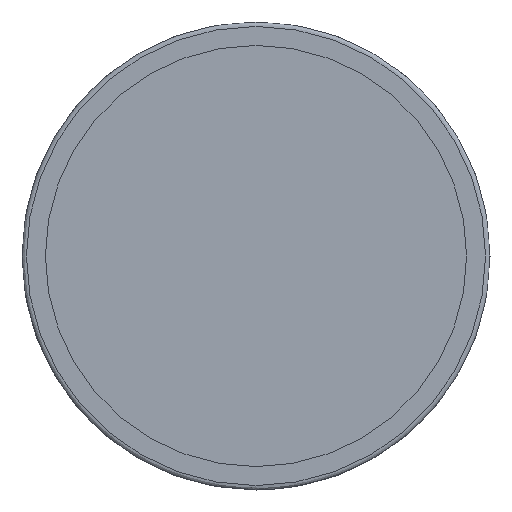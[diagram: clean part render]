
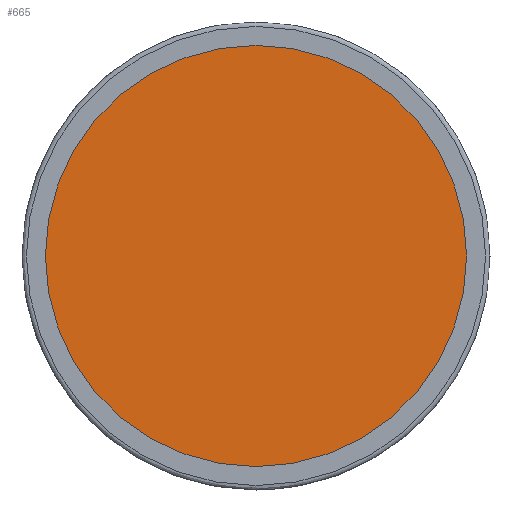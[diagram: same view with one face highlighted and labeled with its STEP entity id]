
A CAD part, left-side view. The second image highlights one B-rep face of the part: STEP entity #665.
In plain terms, the highlighted planar face has unit normal (-1, 0, 0).
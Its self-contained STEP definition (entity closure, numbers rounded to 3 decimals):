
#618=CARTESIAN_POINT('',(-525.136,-516.459,0.0));
#619=VERTEX_POINT('',#618);
#626=CARTESIAN_POINT('',(-525.136,-459.759,0.0));
#627=VERTEX_POINT('',#626);
#628=CARTESIAN_POINT('',(-525.136,-488.109,0.0));
#629=DIRECTION('',(-1.0,0.0,0.0));
#630=DIRECTION('',(0.0,-1.0,0.0));
#631=AXIS2_PLACEMENT_3D('',#628,#629,#630);
#632=CIRCLE('',#631,28.35);
#633=EDGE_CURVE('',#627,#619,#632,.T.);
#635=CARTESIAN_POINT('',(-525.136,-488.109,0.0));
#636=DIRECTION('',(-1.0,0.0,0.0));
#637=DIRECTION('',(0.0,-1.0,0.0));
#638=AXIS2_PLACEMENT_3D('',#635,#636,#637);
#639=CIRCLE('',#638,28.35);
#640=EDGE_CURVE('',#619,#627,#639,.T.);
#656=CARTESIAN_POINT('',(-525.136,-454.089,-34.02));
#657=DIRECTION('',(-1.0,0.0,0.0));
#658=DIRECTION('',(0.0,-1.0,0.0));
#659=AXIS2_PLACEMENT_3D('',#656,#657,#658);
#660=PLANE('',#659);
#661=ORIENTED_EDGE('',*,*,#640,.T.);
#662=ORIENTED_EDGE('',*,*,#633,.T.);
#663=EDGE_LOOP('',(#661,#662));
#664=FACE_OUTER_BOUND('',#663,.T.);
#665=ADVANCED_FACE('',(#664),#660,.T.);
